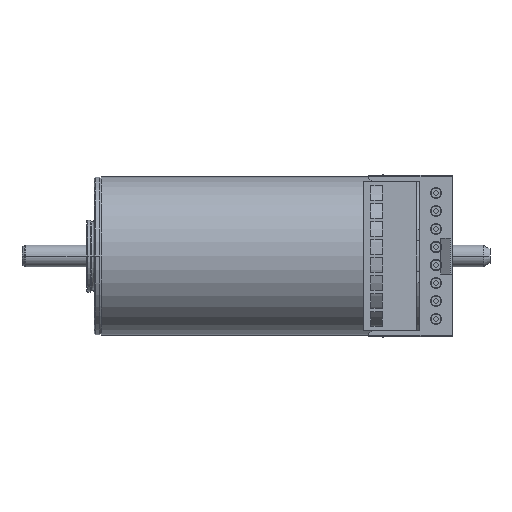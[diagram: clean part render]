
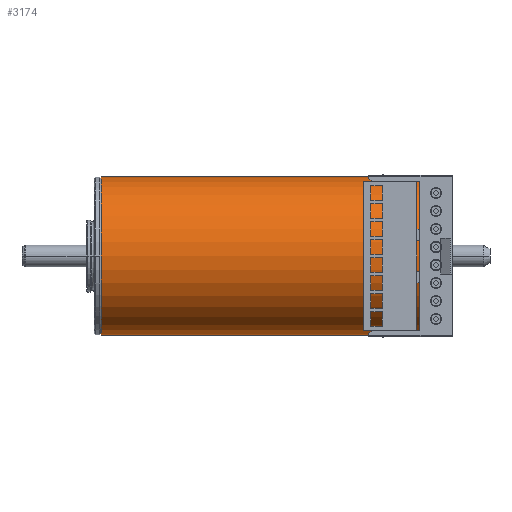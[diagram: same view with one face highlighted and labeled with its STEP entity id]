
A CAD part, front view. The second image highlights one B-rep face of the part: STEP entity #3174.
In plain terms, the highlighted cylindrical face has radius 11 mm (diameter 22 mm), a partial arc.
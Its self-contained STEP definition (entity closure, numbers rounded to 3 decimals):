
#89=CARTESIAN_POINT('',(47.,0.,0.));
#90=DIRECTION('',(1.,0.,0.));
#91=DIRECTION('',(0.,0.,1.));
#92=AXIS2_PLACEMENT_3D('',#89,#90,#91);
#380=DIRECTION('',(1.,0.,0.));
#381=VECTOR('',#380,45.);
#382=CARTESIAN_POINT('',(2.,0.,-11.));
#383=LINE('',#382,#381);
#395=CARTESIAN_POINT('',(2.,0.,0.));
#396=DIRECTION('',(1.,0.,0.));
#397=DIRECTION('',(0.,0.,1.));
#398=AXIS2_PLACEMENT_3D('',#395,#396,#397);
#403=DIRECTION('',(1.,0.,0.));
#404=VECTOR('',#403,45.);
#405=CARTESIAN_POINT('',(2.,0.,11.));
#406=LINE('',#405,#404);
#2682=CARTESIAN_POINT('',(2.,0.,-11.));
#2683=CARTESIAN_POINT('',(2.,0.,11.));
#2684=VERTEX_POINT('',#2682);
#2685=VERTEX_POINT('',#2683);
#2686=CARTESIAN_POINT('',(47.,0.,-11.));
#2687=CARTESIAN_POINT('',(47.,0.,11.));
#2688=VERTEX_POINT('',#2686);
#2689=VERTEX_POINT('',#2687);
#3163=CARTESIAN_POINT('',(2.,0.,0.));
#3164=DIRECTION('',(1.,0.,0.));
#3165=DIRECTION('',(0.,0.,-1.));
#3166=AXIS2_PLACEMENT_3D('',#3163,#3164,#3165);
#3167=CYLINDRICAL_SURFACE('',#3166,11.);
#3168=ORIENTED_EDGE('',*,*,#3145,.F.);
#3169=ORIENTED_EDGE('',*,*,#3127,.T.);
#3170=ORIENTED_EDGE('',*,*,#3031,.T.);
#3171=ORIENTED_EDGE('',*,*,#3124,.F.);
#3172=EDGE_LOOP('',(#3168,#3169,#3170,#3171));
#3173=FACE_OUTER_BOUND('',#3172,.F.);
#3174=ADVANCED_FACE('',(#3173),#3167,.T.);
#93=CIRCLE('',#92,11.);
#399=CIRCLE('',#398,11.);
#3031=EDGE_CURVE('',#2689,#2688,#93,.T.);
#3124=EDGE_CURVE('',#2684,#2688,#383,.T.);
#3127=EDGE_CURVE('',#2685,#2689,#406,.T.);
#3145=EDGE_CURVE('',#2685,#2684,#399,.T.);
